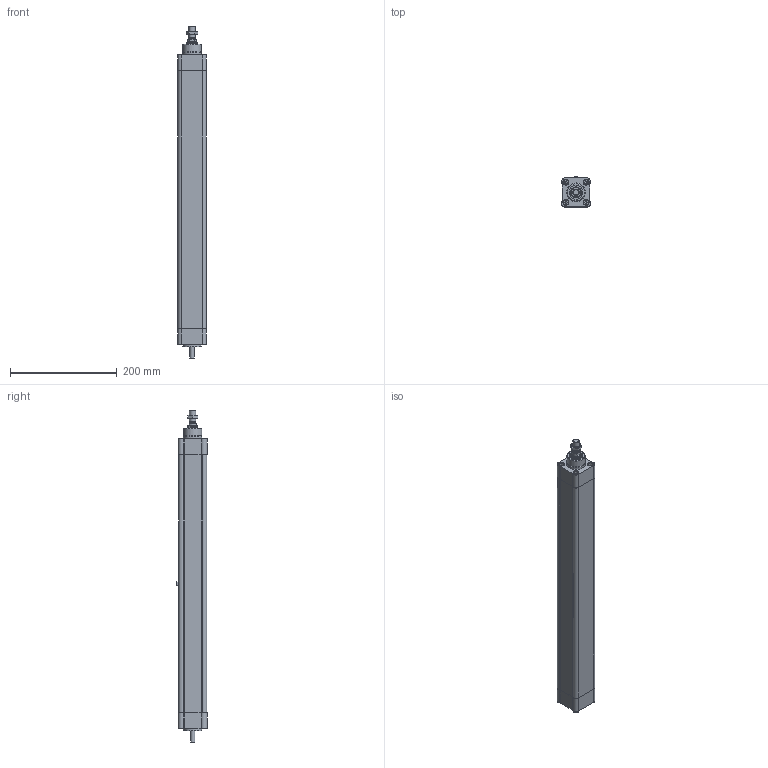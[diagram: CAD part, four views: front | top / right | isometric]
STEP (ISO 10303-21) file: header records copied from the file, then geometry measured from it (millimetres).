
FILE_DESCRIPTION(/* description */ ('STEP AP203'),/* implementation_level */ '2;1');
FILE_NAME(/* name */ 'PNCE 40 BS 1605 400 S(0)',/* time_stamp */ '2025-01-22T11:34:46+01:00',/* author */ ('License CC BY-ND 4.0'),/* organization */ ('CADENAS'),/* preprocessor_version */ 'ST-DEVELOPER v19.3',/* originating_system */ 'PARTsolutions',/* authorisation */ ' ');
FILE_SCHEMA (('CONFIG_CONTROL_DESIGN'));
Length unit declared in the file: millimetre
Products named in the file (6): PNCE 40 BS 1605 400 S(0); PNCE 40_drive cap; PNCE 40 400 S(0)_cylinder profil; PNCE 40_front cap; PNCE 40 400 S 0_piston rod; PNCE 40_nut
Assembly tree (5 placements, depth 2):
  PNCE 40 BS 1605 400 S(0)
    PNCE 40_drive cap
    PNCE 40 400 S(0)_cylinder profil
    PNCE 40_front cap
    PNCE 40 400 S 0_piston rod
    PNCE 40_nut
Bounding box: 53.97 x 56.5 x 623 mm (x, y, z)
Volume: 1080304.3 mm3; surface area: 282832 mm2
Topology: 5 solids, 5 shells, 250 faces, 544 edges, 354 vertices
Faces by surface type: plane 136, cylinder 84, cone 30
Full cylindrical faces by diameter (mm): 4.917 x8, 5 x12, 5.3 x1, 6.5 x4, 8 x1, 8.566 x1, 10 x8, 10.4 x1, 10.647 x1, 11 x8, 12 x1, 19.9 x1, 20 x2, 22 x1, 26 x1, 34 x1, 35 x2, 39 x1, 40 x3
Entity records: 8005 total; most frequent: DIRECTION 1126, CARTESIAN_POINT 1121, ORIENTED_EDGE 884, AXIS2_PLACEMENT_3D 444, EDGE_CURVE 442, FACE_BOUND 409, EDGE_LOOP 400, VERTEX_POINT 347
